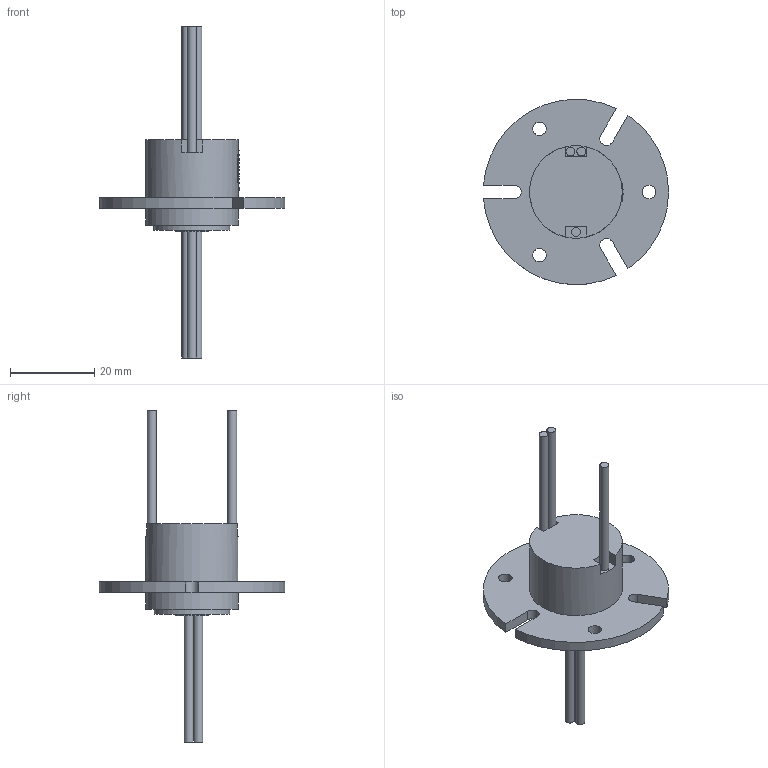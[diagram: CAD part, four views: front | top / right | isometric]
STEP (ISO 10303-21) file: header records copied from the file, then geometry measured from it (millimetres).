
FILE_DESCRIPTION(/* description */ (''),/* implementation_level */ '2;1');
FILE_NAME(/* name */ 'HM022-0315.stp',/* time_stamp */ '2025-09-22T18:33:49+08:00',/* author */ (''),/* organization */ (''),/* preprocessor_version */ 'ST-DEVELOPER v16.7',/* originating_system */ 'SIEMENS PLM Software NX 12.0',/* authorisation */ '');
FILE_SCHEMA (('AUTOMOTIVE_DESIGN { 1 0 10303 214 3 1 1 1 }'));
Length unit declared in the file: millimetre
Products named in the file (1): Admi33B4A770ys9q
Bounding box: 43.94 x 43.97 x 78.8 mm (x, y, z)
Volume: 11166.8 mm3; surface area: 5922.2 mm2
Topology: 1 solids, 1 shells, 574 faces, 1579 edges, 1054 vertices
Faces by surface type: extrusion 311, plane 207, cylinder 30, bspline 26
Full cylindrical faces by diameter (mm): 2.1 x6, 3.2 x3, 7.8 x1, 18 x1, 22 x2
Entity records: 23851 total; most frequent: CARTESIAN_POINT 11644, ORIENTED_EDGE 3122, EDGE_CURVE 1561, B_SPLINE_CURVE_WITH_KNOTS 1557, DIRECTION 1275, VERTEX_POINT 1049, EDGE_LOOP 640, ADVANCED_FACE 574
